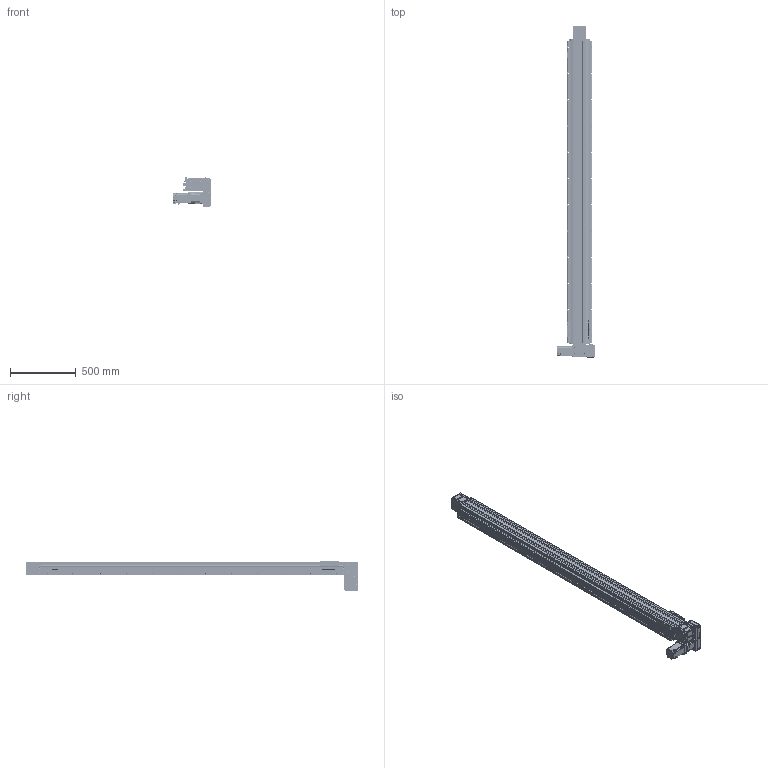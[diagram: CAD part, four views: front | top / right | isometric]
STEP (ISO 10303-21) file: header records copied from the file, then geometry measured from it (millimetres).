
FILE_DESCRIPTION(/* description */ (''),/* implementation_level */ '2;1');
FILE_NAME(/* name */ '\\192.168.0.160\disk1\HAN SHIN Master\B-설계부문\C-표준\B-2024년\BC02-표준도면\+로봇 개선표준도면\홈페이지 표준 도면\홈페이지 최종 작업 폴더\3D\HSB\HSB160\HSB160-DR7G-N-2100-L.stp',/* time_stamp */ '2025-01-10T13:12:27+09:00',/* author */ ('user'),/* organization */ (''),/* preprocessor_version */ 'ST-DEVELOPER v18.1',/* originating_system */ 'Autodesk Inventor 2022',/* authorisation */ '');
FILE_SCHEMA (('AUTOMOTIVE_DESIGN { 1 0 10303 214 3 1 1 }'));
Products named in the file (42): HSB160-DR7G-N-0500-L; BASE; HSB160 TABLE (TEST); FORNT HOUSUNG-1 (Connecting); UPCOVER; HSB160 COVER-1; REAR HOUSUNG-1---; HSB160 REAR SHAFT-2; REAR SHAFT--2; 6004ZZ; 6004ZZ Outer ring; 6004ZZ Shield1; 6004ZZ Inner ring; 6004ZZ Ball; 6004ZZ Shield2; STOPPER3; TENSION PLATE; HSB160 ARC COVER; hsr_ftht_A-M6F_grease_nipple_joint; NIPPLE CAP(신규); SIDE COVER; HSB160 SHAFT-1; HSB160 END COVER; HR120 SENSOR DOG; SENSOR BRK(EE-SX674A); EE_SX674A; hg-kr73_; PGX90-H-1_3; 6206ZZ; 6206ZZ Outer ring; 6206ZZ Shield1; 6206ZZ Inner ring; 6206ZZ Ball; 6206ZZ Shield2; D MOTOR PLATE ASSY; HSB160 D MOTOR PLATE; HR160 400W LR BELT COVER; 750W MOTOR PLATE; HR180 ACRYL COVER - 1; HR180 ACRYL COVER - 1_1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
Assembly tree (87 placements, depth 3):
  HSB160-DR7G-N-0500-L
    BASE
    HSB160 TABLE (TEST)
    FORNT HOUSUNG-1 (Connecting)
    6206ZZ  x2
      6206ZZ Outer ring
      6206ZZ Shield1
      6206ZZ Inner ring
      6206ZZ Ball
      6206ZZ Shield2
    UPCOVER
    HSB160 COVER-1  x2
    REAR HOUSUNG-1---
    6004ZZ  x2
      6004ZZ Outer ring
      6004ZZ Shield1
      6004ZZ Inner ring
      6004ZZ Ball
      6004ZZ Shield2
    HSB160 REAR SHAFT-2
    REAR SHAFT--2
    TENSION PLATE  x2
    HSB160 ARC COVER  x4
    STOPPER3  x4
    SIDE COVER  x2
    hsr_ftht_A-M6F_grease_nipple_joint  x4
    NIPPLE CAP(신규)  x4
    HSB160 SHAFT-1
    HSB160 END COVER
    SENSOR BRK(EE-SX674A)  x3
    EE_SX674A  x3
    HR120 SENSOR DOG
    hg-kr73_
    PGX90-H-1_3
    D MOTOR PLATE ASSY
      HSB160 D MOTOR PLATE
      HR160 400W LR BELT COVER
      750W MOTOR PLATE
      HR180 ACRYL COVER - 1_2  x2
      HR180 ACRYL COVER - 1
      HR180 ACRYL COVER - 1_1
    HSB160 BEARING COVER_대칭도
Bounding box: 284.5 x 2528.5 x 226.5 mm (x, y, z)
Volume: 15127763.3 mm3; surface area: 3821386.7 mm2
Topology: 131 solids, 133 shells, 6586 faces, 18113 edges, 11906 vertices
Faces by surface type: plane 4602, cylinder 1429, cone 383, sphere 88, torus 59, bspline 25
Full cylindrical faces by diameter (mm): 2.013 x2, 2.459 x54, 3 x20, 3.242 x50, 3.4 x22, 3.5 x6, 4.134 x18, 4.2 x4, 4.5 x40, 4.917 x82, 5 x44, 5.1 x1, 5.5 x25, 5.6 x4, 5.9 x4, 6 x21, 6.5 x9, 6.6 x18, 6.8 x9, 7 x32, 7.6 x4, 8 x5, 8.376 x24, 8.433 x2, 9 x4, 9.5 x31, 10 x5, 11 x28, 15 x8, 18.5 x2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
Entity records: 121931 total; most frequent: CARTESIAN_POINT 23027, DIRECTION 20309, ORIENTED_EDGE 19678, EDGE_CURVE 9839, AXIS2_PLACEMENT_3D 6923, VERTEX_POINT 6507, LINE 6463, VECTOR 6463
